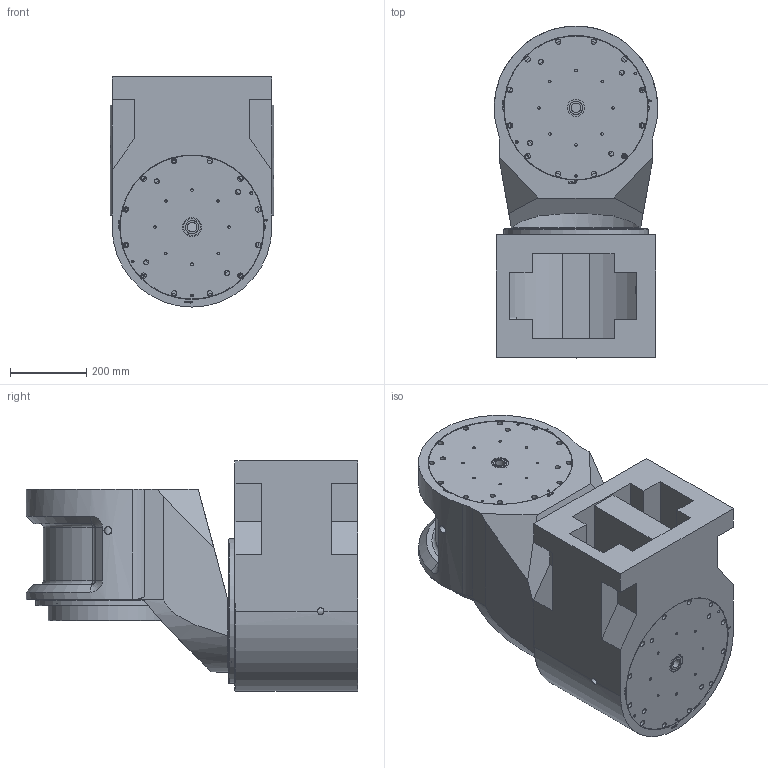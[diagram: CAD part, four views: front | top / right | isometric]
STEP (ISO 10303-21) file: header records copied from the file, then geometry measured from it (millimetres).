
FILE_DESCRIPTION (( 'STEP AP203' ), '1' );
FILE_NAME ('15121375.STEP', '2021-08-24T04:18:05', ( '' ), ( '' ), 'SwSTEP 2.0', 'SolidWorks 2021', '' );
FILE_SCHEMA (( 'CONFIG_CONTROL_DESIGN' ));
Length unit declared in the file: millimetre
Products named in the file (1): 15121375
Bounding box: 430 x 872 x 605 mm (x, y, z)
Surface area: 2470504.9 mm2 (no closed solid volume)
Topology: 0 solids, 20 shells, 251 faces, 1201 edges, 972 vertices
Faces by surface type: cylinder 124, plane 87, cone 30, sphere 4, bspline 4, torus 2
Full cylindrical faces by diameter (mm): 5.2 x2, 6.4 x1, 6.8 x22, 10.2 x18, 11 x12, 14 x24, 17.5 x2, 19 x12, 25 x2, 35 x2, 45 x2, 110 x1, 314 x1, 345 x2, 380 x3
Entity records: 13918 total; most frequent: CARTESIAN_POINT 4875, DIRECTION 1753, ORIENTED_EDGE 1400, EDGE_CURVE 1044, VERTEX_POINT 948, AXIS2_PLACEMENT_3D 604, EDGE_LOOP 555, LINE 545
